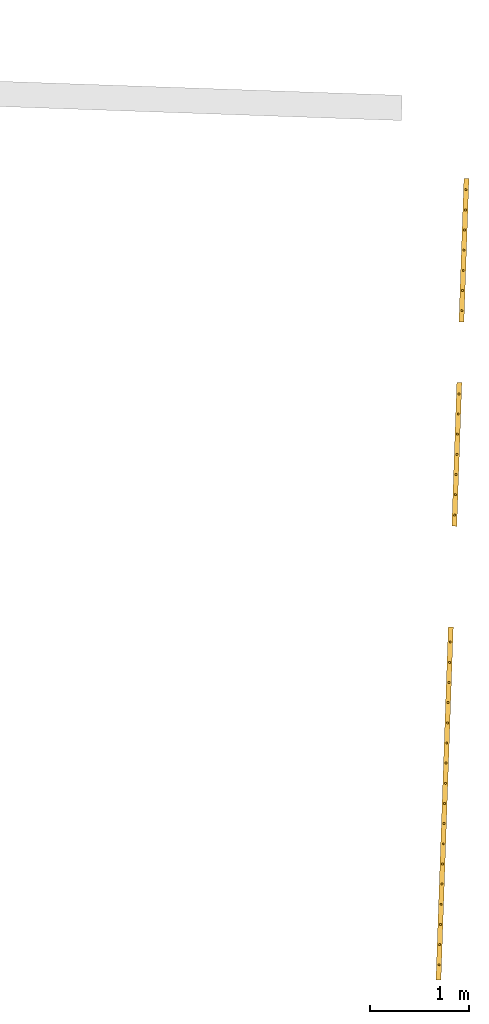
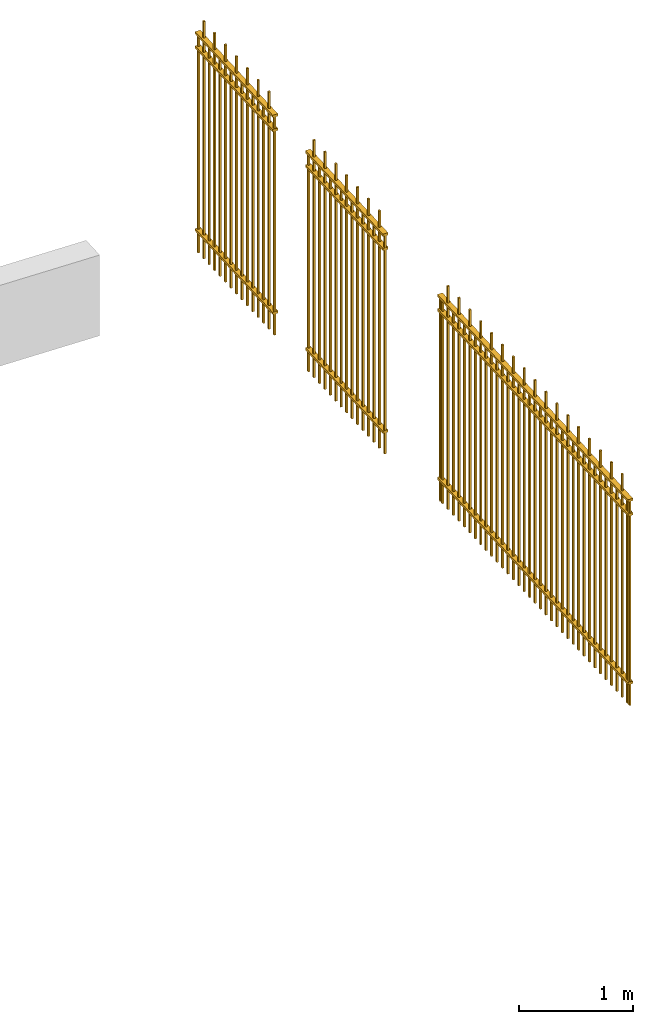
# One storey, part 2 of 2: 3 railings.
"""IFC2X3 building model written with IfcOpenShell, lengths in feet."""

from ifc_helpers import new_model, entity, si_unit, converted_unit, derived_unit, direction, frame, frame_2d, origin, origin_2d_with_axis, place, context, subcontext, project, spatial, rectangle, extrude, element, save


model = new_model("IFC2X3")

# Units and contexts
model_context = context("Model", 3, precision=0.0001, world=origin(), true_north=direction((0.999390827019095, 0.0348994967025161)))
body_context = subcontext(model_context, "Body", "Model", "MODEL_VIEW")
ifc_project = project(units=[converted_unit("LENGTHUNIT", "FOOT", entity("IfcRatioMeasure", 0.3048), si_unit("LENGTHUNIT", "METRE"), dimensions=[1, 0, 0, 0, 0, 0, 0]), converted_unit("AREAUNIT", "SQUARE FOOT", entity("IfcRatioMeasure", 0.09290304), si_unit("AREAUNIT", "SQUARE_METRE"), dimensions=[2, 0, 0, 0, 0, 0, 0]), converted_unit("VOLUMEUNIT", "CUBIC FOOT", entity("IfcRatioMeasure", 0.028316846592), si_unit("VOLUMEUNIT", "CUBIC_METRE"), dimensions=[3, 0, 0, 0, 0, 0, 0]), converted_unit("PLANEANGLEUNIT", "DEGREE", entity("IfcRatioMeasure", 0.0174532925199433), si_unit("PLANEANGLEUNIT", "RADIAN"), dimensions=[0, 0, 0, 0, 0, 0, 0]), si_unit("MASSUNIT", "GRAM", prefix="KILO"), si_unit("TIMEUNIT", "SECOND"), si_unit("FREQUENCYUNIT", "HERTZ"), si_unit("THERMODYNAMICTEMPERATUREUNIT", "DEGREE_CELSIUS"), derived_unit("THERMALTRANSMITTANCEUNIT", [(si_unit("MASSUNIT", "GRAM", prefix="KILO"), 1), (si_unit("THERMODYNAMICTEMPERATUREUNIT", "KELVIN"), -1), (si_unit("TIMEUNIT", "SECOND"), -3)]), derived_unit("VOLUMETRICFLOWRATEUNIT", [(si_unit("LENGTHUNIT", "METRE"), 3), (si_unit("TIMEUNIT", "SECOND"), -1)]), si_unit("ELECTRICCURRENTUNIT", "AMPERE"), si_unit("ELECTRICVOLTAGEUNIT", "VOLT"), si_unit("POWERUNIT", "WATT"), si_unit("FORCEUNIT", "NEWTON"), si_unit("ILLUMINANCEUNIT", "LUX"), si_unit("LUMINOUSFLUXUNIT", "LUMEN"), si_unit("LUMINOUSINTENSITYUNIT", "CANDELA"), derived_unit("USERDEFINED", [(si_unit("MASSUNIT", "GRAM", prefix="KILO"), -1), (si_unit("LENGTHUNIT", "METRE"), -2), (si_unit("TIMEUNIT", "SECOND"), 3), (si_unit("LUMINOUSFLUXUNIT", "LUMEN"), 1)]), derived_unit("LINEARVELOCITYUNIT", [(si_unit("LENGTHUNIT", "METRE"), 1), (si_unit("TIMEUNIT", "SECOND"), -1)]), si_unit("PRESSUREUNIT", "PASCAL"), derived_unit("USERDEFINED", [(si_unit("LENGTHUNIT", "METRE"), -2), (si_unit("MASSUNIT", "GRAM", prefix="KILO"), 1), (si_unit("TIMEUNIT", "SECOND"), -2)])], contexts=[model_context])

# Site, building, storey
site_placement = place(None, frame((892.518771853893, 322.38689265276, 0.00393700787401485), z_axis=(0.0, 0.0, 1.0), x_axis=(0.0348994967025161, 0.999390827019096, 0.0)))
site = spatial("IfcSite", under=ifc_project, at=site_placement, Name="Default", CompositionType="ELEMENT")
building_placement = place(site_placement, origin())
building = spatial("IfcBuilding", under=site, at=building_placement, CompositionType="ELEMENT")
storey_placement = place(building_placement, frame((0.0, 0.0, 556.833333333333)))
storey = spatial("IfcBuildingStorey", under=building, at=storey_placement, Name="1st Floor", CompositionType="ELEMENT", Elevation=556.833333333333)

# Railings
railing_1_placement = place(storey_placement, origin())
element("IfcRailing", 1, at=railing_1_placement, inside=storey, Name="Railing:Garage Security Grille 7'-10\" High", ObjectType="Railing:Garage Security Grille 7'-10\" High", PredefinedType="NOTDEFINED", context=body_context, shape_type="SweptSolid", body=[
    extrude(rectangle(XDim=0.0625, YDim=0.0625, at=origin_2d_with_axis()), frame((206.093023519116, 235.548139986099, 1.36333333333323)), (0.0, 0.0, 1.0), 7.16666666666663),
    extrude(rectangle(XDim=0.0625, YDim=0.0625, at=origin_2d_with_axis()), frame((205.759690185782, 235.548139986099, 1.36333333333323)), (0.0, 0.0, 1.0), 7.83333333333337),
    extrude(rectangle(XDim=0.0625, YDim=0.0625, at=origin_2d_with_axis()), frame((205.426356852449, 235.548139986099, 1.36333333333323)), (0.0, 0.0, 1.0), 7.16666666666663),
    extrude(rectangle(XDim=0.0625, YDim=0.0625, at=origin_2d_with_axis()), frame((205.093023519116, 235.548139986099, 1.36333333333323)), (0.0, 0.0, 1.0), 7.83333333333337),
    extrude(rectangle(XDim=0.0625, YDim=0.0625, at=origin_2d_with_axis()), frame((204.759690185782, 235.548139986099, 1.36333333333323)), (0.0, 0.0, 1.0), 7.16666666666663),
    extrude(rectangle(XDim=0.0625, YDim=0.0625, at=origin_2d_with_axis()), frame((204.426356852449, 235.548139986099, 1.36333333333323)), (0.0, 0.0, 1.0), 7.83333333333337),
    extrude(rectangle(XDim=0.0625, YDim=0.0625, at=origin_2d_with_axis()), frame((204.093023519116, 235.548139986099, 1.36333333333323)), (0.0, 0.0, 1.0), 7.16666666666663),
    extrude(rectangle(XDim=0.0625, YDim=0.0625, at=origin_2d_with_axis()), frame((203.759690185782, 235.548139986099, 1.36333333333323)), (0.0, 0.0, 1.0), 7.83333333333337),
    extrude(rectangle(XDim=0.0625, YDim=0.0625, at=origin_2d_with_axis()), frame((203.426356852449, 235.548139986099, 1.36333333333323)), (0.0, 0.0, 1.0), 7.16666666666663),
    extrude(rectangle(XDim=0.0625, YDim=0.0625, at=origin_2d_with_axis()), frame((203.093023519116, 235.548139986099, 1.36333333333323)), (0.0, 0.0, 1.0), 7.83333333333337),
    extrude(rectangle(XDim=0.0625, YDim=0.0625, at=origin_2d_with_axis()), frame((202.759690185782, 235.548139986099, 1.36333333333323)), (0.0, 0.0, 1.0), 7.16666666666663),
    extrude(rectangle(XDim=0.0625, YDim=0.0625, at=origin_2d_with_axis()), frame((202.426356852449, 235.548139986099, 1.36333333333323)), (0.0, 0.0, 1.0), 7.83333333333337),
    extrude(rectangle(XDim=0.0625, YDim=0.0625, at=origin_2d_with_axis()), frame((202.093023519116, 235.548139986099, 1.36333333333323)), (0.0, 0.0, 1.0), 7.16666666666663),
    extrude(rectangle(XDim=0.0625, YDim=0.0625, at=origin_2d_with_axis()), frame((201.759690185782, 235.548139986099, 1.36333333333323)), (0.0, 0.0, 1.0), 7.83333333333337),
    extrude(rectangle(XDim=0.0625, YDim=0.0625, at=origin_2d_with_axis()), frame((201.426356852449, 235.548139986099, 1.36333333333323)), (0.0, 0.0, 1.0), 7.16666666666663),
    extrude(rectangle(XDim=0.0625, YDim=0.0625, at=origin_2d_with_axis()), frame((201.093023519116, 235.548139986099, 1.36333333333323)), (0.0, 0.0, 1.0), 7.83333333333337),
    extrude(rectangle(XDim=0.0625, YDim=0.0625, at=origin_2d_with_axis()), frame((200.759690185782, 235.548139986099, 1.36333333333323)), (0.0, 0.0, 1.0), 7.16666666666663),
    extrude(rectangle(XDim=0.0625, YDim=0.0625, at=origin_2d_with_axis()), frame((200.426356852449, 235.548139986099, 1.36333333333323)), (0.0, 0.0, 1.0), 7.83333333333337),
    extrude(rectangle(XDim=0.0625, YDim=0.0625, at=origin_2d_with_axis()), frame((200.093023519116, 235.548139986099, 1.36333333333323)), (0.0, 0.0, 1.0), 7.16666666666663),
    extrude(rectangle(XDim=0.0625, YDim=0.0625, at=origin_2d_with_axis()), frame((199.759690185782, 235.548139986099, 1.36333333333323)), (0.0, 0.0, 1.0), 7.83333333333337),
    extrude(rectangle(XDim=0.0625, YDim=0.0625, at=origin_2d_with_axis()), frame((199.426356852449, 235.548139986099, 1.36333333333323)), (0.0, 0.0, 1.0), 7.16666666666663),
    extrude(rectangle(XDim=0.0625, YDim=0.0625, at=origin_2d_with_axis()), frame((199.093023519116, 235.548139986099, 1.36333333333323)), (0.0, 0.0, 1.0), 7.83333333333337),
    extrude(rectangle(XDim=0.0625, YDim=0.0625, at=origin_2d_with_axis()), frame((198.759690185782, 235.548139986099, 1.36333333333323)), (0.0, 0.0, 1.0), 7.16666666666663),
    extrude(rectangle(XDim=0.0625, YDim=0.0625, at=origin_2d_with_axis()), frame((198.426356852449, 235.548139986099, 1.36333333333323)), (0.0, 0.0, 1.0), 7.83333333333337),
    extrude(rectangle(XDim=0.0625, YDim=0.0625, at=origin_2d_with_axis()), frame((198.093023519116, 235.548139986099, 1.36333333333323)), (0.0, 0.0, 1.0), 7.16666666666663),
    extrude(rectangle(XDim=0.0625, YDim=0.0625, at=origin_2d_with_axis()), frame((197.759690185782, 235.548139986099, 1.36333333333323)), (0.0, 0.0, 1.0), 7.83333333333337),
    extrude(rectangle(XDim=0.0625, YDim=0.0625, at=origin_2d_with_axis()), frame((197.426356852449, 235.548139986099, 1.36333333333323)), (0.0, 0.0, 1.0), 7.16666666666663),
    extrude(rectangle(XDim=0.0625, YDim=0.0625, at=origin_2d_with_axis()), frame((197.093023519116, 235.548139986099, 1.36333333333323)), (0.0, 0.0, 1.0), 7.83333333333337),
    extrude(rectangle(XDim=0.0625, YDim=0.0625, at=origin_2d_with_axis()), frame((196.759690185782, 235.548139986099, 1.36333333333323)), (0.0, 0.0, 1.0), 7.16666666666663),
    extrude(rectangle(XDim=0.0625, YDim=0.0625, at=origin_2d_with_axis()), frame((196.426356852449, 235.548139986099, 1.36333333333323)), (0.0, 0.0, 1.0), 7.83333333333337),
    extrude(rectangle(XDim=0.0625, YDim=0.0625, at=origin_2d_with_axis()), frame((196.093023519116, 235.548139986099, 1.36333333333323)), (0.0, 0.0, 1.0), 7.16666666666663),
    extrude(rectangle(XDim=0.0625, YDim=0.0625, at=origin_2d_with_axis()), frame((195.759690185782, 235.548139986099, 1.36333333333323)), (0.0, 0.0, 1.0), 7.83333333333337),
    extrude(rectangle(XDim=0.0625, YDim=0.0625, at=origin_2d_with_axis()), frame((195.426356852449, 235.548139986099, 1.36333333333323)), (0.0, 0.0, 1.0), 7.16666666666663),
    extrude(rectangle(XDim=0.0625, YDim=0.0625, at=origin_2d_with_axis()), frame((195.093023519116, 235.548139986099, 1.36333333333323)), (0.0, 0.0, 1.0), 7.83333333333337),
    extrude(rectangle(XDim=0.0625, YDim=0.0625, at=origin_2d_with_axis()), frame((194.759690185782, 235.548139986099, 1.36333333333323)), (0.0, 0.0, 1.0), 7.16666666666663),
    extrude(rectangle(XDim=0.0625, YDim=0.0625, at=origin_2d_with_axis()), frame((206.218023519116, 235.548139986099, 1.36333333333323)), (0.0, 0.0, 1.0), 7.16666666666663),
    extrude(rectangle(XDim=0.0625, YDim=0.0625, at=origin_2d_with_axis()), frame((194.634690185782, 235.548139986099, 1.36333333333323)), (0.0, 0.0, 1.0), 7.16666666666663),
    extrude(rectangle(XDim=11.6666666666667, YDim=0.166666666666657, at=frame_2d((1.4210854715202e-14, -1.4210854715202e-14), x_axis=(1.0, 0.0))), frame((200.426356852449, 235.548139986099, 8.52999999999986)), (0.0, 0.0, 1.0), 0.0833333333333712),
    extrude(rectangle(XDim=11.6666666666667, YDim=0.166666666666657, at=frame_2d((1.4210854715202e-14, -1.4210854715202e-14), x_axis=(1.0, 0.0))), frame((200.426356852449, 235.548139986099, 2.11333333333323)), (0.0, 0.0, 1.0), 0.0833333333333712),
    extrude(rectangle(XDim=11.6666666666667, YDim=0.166666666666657, at=frame_2d((1.4210854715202e-14, -1.4210854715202e-14), x_axis=(1.0, 0.0))), frame((200.426356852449, 235.548139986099, 8.02999999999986)), (0.0, 0.0, 1.0), 0.0833333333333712),
])
railing_2_placement = place(storey_placement, origin())
element("IfcRailing", 2, at=railing_2_placement, inside=storey, Name="Railing:Garage Security Grille 8'-4\" High", ObjectType="Railing:Garage Security Grille 8'-4\" High", PredefinedType="NOTDEFINED", context=body_context, shape_type="SweptSolid", body=[
    extrude(rectangle(XDim=0.0625, YDim=0.0625, at=origin_2d_with_axis()), frame((214.301824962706, 235.548139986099, 0.913333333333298)), (0.0, 0.0, 1.0), 7.66666666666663),
    extrude(rectangle(XDim=0.0625, YDim=0.0625, at=origin_2d_with_axis()), frame((213.968491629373, 235.548139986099, 0.913333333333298)), (0.0, 0.0, 1.0), 8.33333333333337),
    extrude(rectangle(XDim=0.0625, YDim=0.0625, at=origin_2d_with_axis()), frame((213.63515829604, 235.548139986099, 0.913333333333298)), (0.0, 0.0, 1.0), 7.66666666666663),
    extrude(rectangle(XDim=0.0625, YDim=0.0625, at=origin_2d_with_axis()), frame((213.301824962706, 235.548139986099, 0.913333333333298)), (0.0, 0.0, 1.0), 8.33333333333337),
    extrude(rectangle(XDim=0.0625, YDim=0.0625, at=origin_2d_with_axis()), frame((212.968491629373, 235.548139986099, 0.913333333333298)), (0.0, 0.0, 1.0), 7.66666666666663),
    extrude(rectangle(XDim=0.0625, YDim=0.0625, at=origin_2d_with_axis()), frame((212.63515829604, 235.548139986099, 0.913333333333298)), (0.0, 0.0, 1.0), 8.33333333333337),
    extrude(rectangle(XDim=0.0625, YDim=0.0625, at=origin_2d_with_axis()), frame((212.301824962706, 235.548139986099, 0.913333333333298)), (0.0, 0.0, 1.0), 7.66666666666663),
    extrude(rectangle(XDim=0.0625, YDim=0.0625, at=origin_2d_with_axis()), frame((211.968491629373, 235.548139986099, 0.913333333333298)), (0.0, 0.0, 1.0), 8.33333333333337),
    extrude(rectangle(XDim=0.0625, YDim=0.0625, at=origin_2d_with_axis()), frame((211.63515829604, 235.548139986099, 0.913333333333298)), (0.0, 0.0, 1.0), 7.66666666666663),
    extrude(rectangle(XDim=0.0625, YDim=0.0625, at=origin_2d_with_axis()), frame((211.301824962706, 235.548139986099, 0.913333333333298)), (0.0, 0.0, 1.0), 8.33333333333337),
    extrude(rectangle(XDim=0.0625, YDim=0.0625, at=origin_2d_with_axis()), frame((210.968491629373, 235.548139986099, 0.913333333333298)), (0.0, 0.0, 1.0), 7.66666666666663),
    extrude(rectangle(XDim=0.0625, YDim=0.0625, at=origin_2d_with_axis()), frame((210.63515829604, 235.548139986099, 0.913333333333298)), (0.0, 0.0, 1.0), 8.33333333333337),
    extrude(rectangle(XDim=0.0625, YDim=0.0625, at=origin_2d_with_axis()), frame((210.301824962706, 235.548139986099, 0.913333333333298)), (0.0, 0.0, 1.0), 7.66666666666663),
    extrude(rectangle(XDim=0.0625, YDim=0.0625, at=origin_2d_with_axis()), frame((209.968491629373, 235.548139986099, 0.913333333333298)), (0.0, 0.0, 1.0), 8.33333333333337),
    extrude(rectangle(XDim=0.0625, YDim=0.0625, at=origin_2d_with_axis()), frame((209.63515829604, 235.548139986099, 0.913333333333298)), (0.0, 0.0, 1.0), 7.66666666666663),
    extrude(rectangle(XDim=0.0625, YDim=0.0625, at=origin_2d_with_axis()), frame((214.302293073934, 235.548139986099, 0.913333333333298)), (0.0, 0.0, 1.0), 7.66666666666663),
    extrude(rectangle(XDim=0.0625, YDim=0.0625, at=origin_2d_with_axis()), frame((209.634690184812, 235.548139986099, 0.913333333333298)), (0.0, 0.0, 1.0), 7.66666666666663),
    extrude(rectangle(XDim=4.75093622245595, YDim=0.166666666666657, at=origin_2d_with_axis()), frame((211.968491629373, 235.548139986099, 8.57999999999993)), (0.0, 0.0, 1.0), 0.0833333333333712),
    extrude(rectangle(XDim=4.75093622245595, YDim=0.166666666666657, at=origin_2d_with_axis()), frame((211.968491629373, 235.548139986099, 1.6633333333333)), (0.0, 0.0, 1.0), 0.0833333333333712),
    extrude(rectangle(XDim=4.75093622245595, YDim=0.166666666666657, at=origin_2d_with_axis()), frame((211.968491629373, 235.548139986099, 8.07999999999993)), (0.0, 0.0, 1.0), 0.0833333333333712),
])
railing_3_placement = place(storey_placement, origin())
element("IfcRailing", 3, at=railing_3_placement, inside=storey, Name="Railing:Garage Security Grille 8'-4\" High", ObjectType="Railing:Garage Security Grille 8'-4\" High", PredefinedType="NOTDEFINED", context=body_context, shape_type="SweptSolid", body=[
    extrude(rectangle(XDim=0.0625, YDim=0.0625, at=origin_2d_with_axis()), frame((221.051824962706, 235.548139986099, 0.913333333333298)), (0.0, 0.0, 1.0), 7.66666666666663),
    extrude(rectangle(XDim=0.0625, YDim=0.0625, at=origin_2d_with_axis()), frame((220.718491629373, 235.548139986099, 0.913333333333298)), (0.0, 0.0, 1.0), 8.33333333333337),
    extrude(rectangle(XDim=0.0625, YDim=0.0625, at=origin_2d_with_axis()), frame((220.38515829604, 235.548139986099, 0.913333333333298)), (0.0, 0.0, 1.0), 7.66666666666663),
    extrude(rectangle(XDim=0.0625, YDim=0.0625, at=origin_2d_with_axis()), frame((220.051824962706, 235.548139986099, 0.913333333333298)), (0.0, 0.0, 1.0), 8.33333333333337),
    extrude(rectangle(XDim=0.0625, YDim=0.0625, at=origin_2d_with_axis()), frame((219.718491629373, 235.548139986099, 0.913333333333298)), (0.0, 0.0, 1.0), 7.66666666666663),
    extrude(rectangle(XDim=0.0625, YDim=0.0625, at=origin_2d_with_axis()), frame((219.38515829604, 235.548139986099, 0.913333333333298)), (0.0, 0.0, 1.0), 8.33333333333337),
    extrude(rectangle(XDim=0.0625, YDim=0.0625, at=origin_2d_with_axis()), frame((219.051824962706, 235.548139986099, 0.913333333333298)), (0.0, 0.0, 1.0), 7.66666666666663),
    extrude(rectangle(XDim=0.0625, YDim=0.0625, at=origin_2d_with_axis()), frame((218.718491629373, 235.548139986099, 0.913333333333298)), (0.0, 0.0, 1.0), 8.33333333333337),
    extrude(rectangle(XDim=0.0625, YDim=0.0625, at=origin_2d_with_axis()), frame((218.38515829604, 235.548139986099, 0.913333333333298)), (0.0, 0.0, 1.0), 7.66666666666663),
    extrude(rectangle(XDim=0.0625, YDim=0.0625, at=origin_2d_with_axis()), frame((218.051824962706, 235.548139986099, 0.913333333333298)), (0.0, 0.0, 1.0), 8.33333333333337),
    extrude(rectangle(XDim=0.0625, YDim=0.0625, at=origin_2d_with_axis()), frame((217.718491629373, 235.548139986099, 0.913333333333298)), (0.0, 0.0, 1.0), 7.66666666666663),
    extrude(rectangle(XDim=0.0625, YDim=0.0625, at=origin_2d_with_axis()), frame((217.38515829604, 235.548139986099, 0.913333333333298)), (0.0, 0.0, 1.0), 8.33333333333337),
    extrude(rectangle(XDim=0.0625, YDim=0.0625, at=origin_2d_with_axis()), frame((217.051824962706, 235.548139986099, 0.913333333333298)), (0.0, 0.0, 1.0), 7.66666666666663),
    extrude(rectangle(XDim=0.0625, YDim=0.0625, at=origin_2d_with_axis()), frame((216.718491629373, 235.548139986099, 0.913333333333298)), (0.0, 0.0, 1.0), 8.33333333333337),
    extrude(rectangle(XDim=0.0625, YDim=0.0625, at=origin_2d_with_axis()), frame((216.38515829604, 235.548139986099, 0.913333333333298)), (0.0, 0.0, 1.0), 7.66666666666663),
    extrude(rectangle(XDim=0.0625, YDim=0.0625, at=origin_2d_with_axis()), frame((221.052293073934, 235.548139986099, 0.913333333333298)), (0.0, 0.0, 1.0), 7.66666666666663),
    extrude(rectangle(XDim=0.0625, YDim=0.0625, at=origin_2d_with_axis()), frame((216.384690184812, 235.548139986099, 0.913333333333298)), (0.0, 0.0, 1.0), 7.66666666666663),
    extrude(rectangle(XDim=4.75093622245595, YDim=0.166666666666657, at=frame_2d((0.0, -2.8421709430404e-14), x_axis=(1.0, 0.0))), frame((218.718491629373, 235.548139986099, 8.57999999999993)), (0.0, 0.0, 1.0), 0.0833333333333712),
    extrude(rectangle(XDim=4.75093622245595, YDim=0.166666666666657, at=frame_2d((0.0, -2.8421709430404e-14), x_axis=(1.0, 0.0))), frame((218.718491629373, 235.548139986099, 1.6633333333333)), (0.0, 0.0, 1.0), 0.0833333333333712),
    extrude(rectangle(XDim=4.75093622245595, YDim=0.166666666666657, at=frame_2d((0.0, -2.8421709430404e-14), x_axis=(1.0, 0.0))), frame((218.718491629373, 235.548139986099, 8.07999999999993)), (0.0, 0.0, 1.0), 0.0833333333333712),
])

save(model, "model.ifc")
